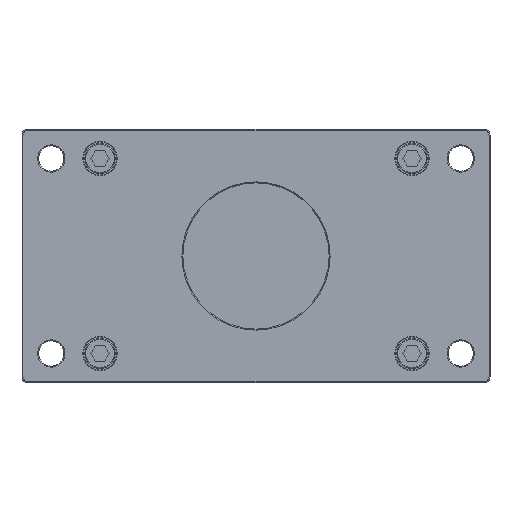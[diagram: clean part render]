
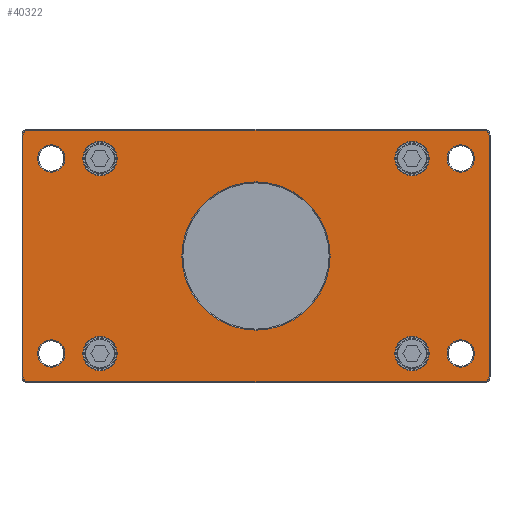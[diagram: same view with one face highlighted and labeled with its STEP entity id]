
A CAD part, front view. The second image highlights one B-rep face of the part: STEP entity #40322.
In plain terms, the highlighted planar face has unit normal (0, -1, 0) as drawn and (0, 1, 0) by its records, which use the part's own axes.
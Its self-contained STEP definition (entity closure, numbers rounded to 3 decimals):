
#38774=CARTESIAN_POINT('',(0.,9.,0.));
#38775=DIRECTION('',(0.,-1.,0.));
#38776=DIRECTION('',(1.,0.,0.));
#38777=AXIS2_PLACEMENT_3D('',#38774,#38775,#38776);
#38779=CARTESIAN_POINT('',(0.,9.,0.));
#38780=DIRECTION('',(0.,-1.,0.));
#38781=DIRECTION('',(-1.,0.,0.));
#38782=AXIS2_PLACEMENT_3D('',#38779,#38780,#38781);
#38784=CARTESIAN_POINT('',(-105.,9.,-50.));
#38785=DIRECTION('',(0.,-1.,0.));
#38786=DIRECTION('',(-1.,0.,0.));
#38787=AXIS2_PLACEMENT_3D('',#38784,#38785,#38786);
#38789=CARTESIAN_POINT('',(-105.,9.,-50.));
#38790=DIRECTION('',(0.,-1.,0.));
#38791=DIRECTION('',(1.,0.,0.));
#38792=AXIS2_PLACEMENT_3D('',#38789,#38790,#38791);
#38794=CARTESIAN_POINT('',(105.,9.,-50.));
#38795=DIRECTION('',(0.,-1.,0.));
#38796=DIRECTION('',(-1.,0.,0.));
#38797=AXIS2_PLACEMENT_3D('',#38794,#38795,#38796);
#38799=CARTESIAN_POINT('',(105.,9.,-50.));
#38800=DIRECTION('',(0.,-1.,0.));
#38801=DIRECTION('',(1.,0.,0.));
#38802=AXIS2_PLACEMENT_3D('',#38799,#38800,#38801);
#38804=CARTESIAN_POINT('',(105.,9.,50.));
#38805=DIRECTION('',(0.,-1.,0.));
#38806=DIRECTION('',(1.,0.,0.));
#38807=AXIS2_PLACEMENT_3D('',#38804,#38805,#38806);
#38809=CARTESIAN_POINT('',(105.,9.,50.));
#38810=DIRECTION('',(0.,-1.,0.));
#38811=DIRECTION('',(-1.,0.,0.));
#38812=AXIS2_PLACEMENT_3D('',#38809,#38810,#38811);
#38814=CARTESIAN_POINT('',(-105.,9.,50.));
#38815=DIRECTION('',(0.,-1.,0.));
#38816=DIRECTION('',(-1.,0.,0.));
#38817=AXIS2_PLACEMENT_3D('',#38814,#38815,#38816);
#38819=CARTESIAN_POINT('',(-105.,9.,50.));
#38820=DIRECTION('',(0.,-1.,0.));
#38821=DIRECTION('',(1.,0.,0.));
#38822=AXIS2_PLACEMENT_3D('',#38819,#38820,#38821);
#38824=CARTESIAN_POINT('',(-117.,9.,-62.));
#38825=DIRECTION('',(0.,1.,0.));
#38826=DIRECTION('',(0.,0.,-1.));
#38827=AXIS2_PLACEMENT_3D('',#38824,#38825,#38826);
#38829=DIRECTION('',(-1.,0.,0.));
#38830=VECTOR('',#38829,234.);
#38831=CARTESIAN_POINT('',(117.,9.,
-64.5));
#38832=LINE('',#38831,#38830);
#38833=CARTESIAN_POINT('',(117.,9.,-62.));
#38834=DIRECTION('',(0.,1.,0.));
#38835=DIRECTION('',(1.,0.,0.));
#38836=AXIS2_PLACEMENT_3D('',#38833,#38834,#38835);
#38838=DIRECTION('',(0.,0.,-1.));
#38839=VECTOR('',#38838,124.);
#38840=CARTESIAN_POINT('',(119.5,9.,62.));
#38841=LINE('',#38840,#38839);
#38842=CARTESIAN_POINT('',(117.,9.,62.));
#38843=DIRECTION('',(0.,1.,0.));
#38844=DIRECTION('',(0.,0.,1.));
#38845=AXIS2_PLACEMENT_3D('',#38842,#38843,#38844);
#38847=DIRECTION('',(1.,0.,0.));
#38848=VECTOR('',#38847,234.);
#38849=CARTESIAN_POINT('',(-117.,9.,
64.5));
#38850=LINE('',#38849,#38848);
#38851=CARTESIAN_POINT('',(-117.,9.,62.));
#38852=DIRECTION('',(0.,1.,0.));
#38853=DIRECTION('',(-1.,0.,0.));
#38854=AXIS2_PLACEMENT_3D('',#38851,#38852,#38853);
#38856=DIRECTION('',(0.,0.,1.));
#38857=VECTOR('',#38856,124.);
#38858=CARTESIAN_POINT('',(-119.5,9.,
-62.));
#38859=LINE('',#38858,#38857);
#38860=CARTESIAN_POINT('',(80.,9.,50.));
#38861=DIRECTION('',(0.,-1.,0.));
#38862=DIRECTION('',(1.,0.,0.));
#38863=AXIS2_PLACEMENT_3D('',#38860,#38861,#38862);
#38865=CARTESIAN_POINT('',(80.,9.,50.));
#38866=DIRECTION('',(0.,-1.,0.));
#38867=DIRECTION('',(-1.,0.,0.));
#38868=AXIS2_PLACEMENT_3D('',#38865,#38866,#38867);
#38870=CARTESIAN_POINT('',(-80.,9.,50.));
#38871=DIRECTION('',(0.,-1.,0.));
#38872=DIRECTION('',(1.,0.,0.));
#38873=AXIS2_PLACEMENT_3D('',#38870,#38871,#38872);
#38875=CARTESIAN_POINT('',(-80.,9.,50.));
#38876=DIRECTION('',(0.,-1.,0.));
#38877=DIRECTION('',(-1.,0.,0.));
#38878=AXIS2_PLACEMENT_3D('',#38875,#38876,#38877);
#38880=CARTESIAN_POINT('',(80.,9.,-50.));
#38881=DIRECTION('',(0.,-1.,0.));
#38882=DIRECTION('',(1.,0.,0.));
#38883=AXIS2_PLACEMENT_3D('',#38880,#38881,#38882);
#38885=CARTESIAN_POINT('',(80.,9.,-50.));
#38886=DIRECTION('',(0.,-1.,0.));
#38887=DIRECTION('',(-1.,0.,0.));
#38888=AXIS2_PLACEMENT_3D('',#38885,#38886,#38887);
#38890=CARTESIAN_POINT('',(-80.,9.,-50.));
#38891=DIRECTION('',(0.,-1.,0.));
#38892=DIRECTION('',(1.,0.,0.));
#38893=AXIS2_PLACEMENT_3D('',#38890,#38891,#38892);
#38895=CARTESIAN_POINT('',(-80.,9.,-50.));
#38896=DIRECTION('',(0.,-1.,0.));
#38897=DIRECTION('',(-1.,0.,0.));
#38898=AXIS2_PLACEMENT_3D('',#38895,#38896,#38897);
#39806=CARTESIAN_POINT('',(38.,9.,0.));
#39807=CARTESIAN_POINT('',(-38.,9.,0.));
#39808=VERTEX_POINT('',#39806);
#39809=VERTEX_POINT('',#39807);
#39822=CARTESIAN_POINT('',(-112.,9.,-50.));
#39823=CARTESIAN_POINT('',(-98.,9.,-50.));
#39824=VERTEX_POINT('',#39822);
#39825=VERTEX_POINT('',#39823);
#39830=CARTESIAN_POINT('',(98.,9.,-50.));
#39831=CARTESIAN_POINT('',(112.,9.,-50.));
#39832=VERTEX_POINT('',#39830);
#39833=VERTEX_POINT('',#39831);
#39838=CARTESIAN_POINT('',(112.,9.,50.));
#39839=CARTESIAN_POINT('',(98.,9.,50.));
#39840=VERTEX_POINT('',#39838);
#39841=VERTEX_POINT('',#39839);
#39846=CARTESIAN_POINT('',(-112.,9.,50.));
#39847=CARTESIAN_POINT('',(-98.,9.,50.));
#39848=VERTEX_POINT('',#39846);
#39849=VERTEX_POINT('',#39847);
#39918=CARTESIAN_POINT('',(-117.,9.,-64.5));
#39919=CARTESIAN_POINT('',(-119.5,9.,-62.));
#39920=VERTEX_POINT('',#39918);
#39921=VERTEX_POINT('',#39919);
#39926=CARTESIAN_POINT('',(-119.5,9.,
62.));
#39927=VERTEX_POINT('',#39926);
#39930=CARTESIAN_POINT('',(-117.,9.,64.5));
#39931=VERTEX_POINT('',#39930);
#39934=CARTESIAN_POINT('',(117.,9.,64.5));
#39935=VERTEX_POINT('',#39934);
#39938=CARTESIAN_POINT('',(119.5,9.,62.));
#39939=VERTEX_POINT('',#39938);
#39942=CARTESIAN_POINT('',(119.5,9.,
-62.));
#39943=VERTEX_POINT('',#39942);
#39946=CARTESIAN_POINT('',(117.,9.,-64.5));
#39947=VERTEX_POINT('',#39946);
#39966=CARTESIAN_POINT('',(88.8,9.,50.));
#39967=CARTESIAN_POINT('',(71.2,9.,50.));
#39968=VERTEX_POINT('',#39966);
#39969=VERTEX_POINT('',#39967);
#39990=CARTESIAN_POINT('',(-71.2,9.,50.));
#39991=CARTESIAN_POINT('',(-88.8,9.,50.));
#39992=VERTEX_POINT('',#39990);
#39993=VERTEX_POINT('',#39991);
#40006=CARTESIAN_POINT('',(88.8,9.,-50.));
#40007=CARTESIAN_POINT('',(71.2,9.,-50.));
#40008=VERTEX_POINT('',#40006);
#40009=VERTEX_POINT('',#40007);
#40014=CARTESIAN_POINT('',(-71.2,9.,-50.));
#40015=CARTESIAN_POINT('',(-88.8,9.,-50.));
#40016=VERTEX_POINT('',#40014);
#40017=VERTEX_POINT('',#40015);
#40246=CARTESIAN_POINT('',(0.,9.,0.));
#40247=DIRECTION('',(0.,1.,0.));
#40248=DIRECTION('',(1.,0.,0.));
#40249=AXIS2_PLACEMENT_3D('',#40246,#40247,#40248);
#40250=PLANE('',#40249);
#40252=ORIENTED_EDGE('',*,*,#40251,.F.);
#40254=ORIENTED_EDGE('',*,*,#40253,.F.);
#40256=ORIENTED_EDGE('',*,*,#40255,.F.);
#40258=ORIENTED_EDGE('',*,*,#40257,.F.);
#40260=ORIENTED_EDGE('',*,*,#40259,.F.);
#40262=ORIENTED_EDGE('',*,*,#40261,.F.);
#40264=ORIENTED_EDGE('',*,*,#40263,.F.);
#40266=ORIENTED_EDGE('',*,*,#40265,.F.);
#40267=EDGE_LOOP('',(#40252,#40254,#40256,#40258,#40260,#40262,#40264,#40266));
#40268=FACE_OUTER_BOUND('',#40267,.F.);
#40270=ORIENTED_EDGE('',*,*,#40269,.F.);
#40272=ORIENTED_EDGE('',*,*,#40271,.F.);
#40273=EDGE_LOOP('',(#40270,#40272));
#40274=FACE_BOUND('',#40273,.F.);
#40276=ORIENTED_EDGE('',*,*,#40275,.F.);
#40278=ORIENTED_EDGE('',*,*,#40277,.F.);
#40279=EDGE_LOOP('',(#40276,#40278));
#40280=FACE_BOUND('',#40279,.F.);
#40282=ORIENTED_EDGE('',*,*,#40281,.F.);
#40284=ORIENTED_EDGE('',*,*,#40283,.F.);
#40285=EDGE_LOOP('',(#40282,#40284));
#40286=FACE_BOUND('',#40285,.F.);
#40288=ORIENTED_EDGE('',*,*,#40287,.F.);
#40290=ORIENTED_EDGE('',*,*,#40289,.F.);
#40291=EDGE_LOOP('',(#40288,#40290));
#40292=FACE_BOUND('',#40291,.F.);
#40294=ORIENTED_EDGE('',*,*,#40293,.F.);
#40295=ORIENTED_EDGE('',*,*,#40236,.F.);
#40296=EDGE_LOOP('',(#40294,#40295));
#40297=FACE_BOUND('',#40296,.F.);
#40299=ORIENTED_EDGE('',*,*,#40298,.F.);
#40301=ORIENTED_EDGE('',*,*,#40300,.F.);
#40302=EDGE_LOOP('',(#40299,#40301));
#40303=FACE_BOUND('',#40302,.F.);
#40305=ORIENTED_EDGE('',*,*,#40304,.F.);
#40307=ORIENTED_EDGE('',*,*,#40306,.F.);
#40308=EDGE_LOOP('',(#40305,#40307));
#40309=FACE_BOUND('',#40308,.F.);
#40311=ORIENTED_EDGE('',*,*,#40310,.F.);
#40313=ORIENTED_EDGE('',*,*,#40312,.F.);
#40314=EDGE_LOOP('',(#40311,#40313));
#40315=FACE_BOUND('',#40314,.F.);
#40317=ORIENTED_EDGE('',*,*,#40316,.F.);
#40319=ORIENTED_EDGE('',*,*,#40318,.F.);
#40320=EDGE_LOOP('',(#40317,#40319));
#40321=FACE_BOUND('',#40320,.F.);
#40322=ADVANCED_FACE('',(#40268,#40274,#40280,#40286,#40292,#40297,#40303,
#40309,#40315,#40321),#40250,.T.);
#38778=CIRCLE('',#38777,38.);
#38783=CIRCLE('',#38782,38.);
#38788=CIRCLE('',#38787,7.);
#38793=CIRCLE('',#38792,7.);
#38798=CIRCLE('',#38797,7.);
#38803=CIRCLE('',#38802,7.);
#38808=CIRCLE('',#38807,7.);
#38813=CIRCLE('',#38812,7.);
#38818=CIRCLE('',#38817,7.);
#38823=CIRCLE('',#38822,7.);
#38828=CIRCLE('',#38827,2.5);
#38837=CIRCLE('',#38836,2.5);
#38846=CIRCLE('',#38845,2.5);
#38855=CIRCLE('',#38854,2.5);
#38864=CIRCLE('',#38863,8.8);
#38869=CIRCLE('',#38868,8.8);
#38874=CIRCLE('',#38873,8.8);
#38879=CIRCLE('',#38878,8.8);
#38884=CIRCLE('',#38883,8.8);
#38889=CIRCLE('',#38888,8.8);
#38894=CIRCLE('',#38893,8.8);
#38899=CIRCLE('',#38898,8.8);
#40236=EDGE_CURVE('',#39809,#39808,#38783,.T.);
#40251=EDGE_CURVE('',#39920,#39921,#38828,.T.);
#40253=EDGE_CURVE('',#39947,#39920,#38832,.T.);
#40255=EDGE_CURVE('',#39943,#39947,#38837,.T.);
#40257=EDGE_CURVE('',#39939,#39943,#38841,.T.);
#40259=EDGE_CURVE('',#39935,#39939,#38846,.T.);
#40261=EDGE_CURVE('',#39931,#39935,#38850,.T.);
#40263=EDGE_CURVE('',#39927,#39931,#38855,.T.);
#40265=EDGE_CURVE('',#39921,#39927,#38859,.T.);
#40269=EDGE_CURVE('',#39824,#39825,#38788,.T.);
#40271=EDGE_CURVE('',#39825,#39824,#38793,.T.);
#40275=EDGE_CURVE('',#39832,#39833,#38798,.T.);
#40277=EDGE_CURVE('',#39833,#39832,#38803,.T.);
#40281=EDGE_CURVE('',#39840,#39841,#38808,.T.);
#40283=EDGE_CURVE('',#39841,#39840,#38813,.T.);
#40287=EDGE_CURVE('',#39848,#39849,#38818,.T.);
#40289=EDGE_CURVE('',#39849,#39848,#38823,.T.);
#40293=EDGE_CURVE('',#39808,#39809,#38778,.T.);
#40298=EDGE_CURVE('',#39968,#39969,#38864,.T.);
#40300=EDGE_CURVE('',#39969,#39968,#38869,.T.);
#40304=EDGE_CURVE('',#39992,#39993,#38874,.T.);
#40306=EDGE_CURVE('',#39993,#39992,#38879,.T.);
#40310=EDGE_CURVE('',#40008,#40009,#38884,.T.);
#40312=EDGE_CURVE('',#40009,#40008,#38889,.T.);
#40316=EDGE_CURVE('',#40016,#40017,#38894,.T.);
#40318=EDGE_CURVE('',#40017,#40016,#38899,.T.);
